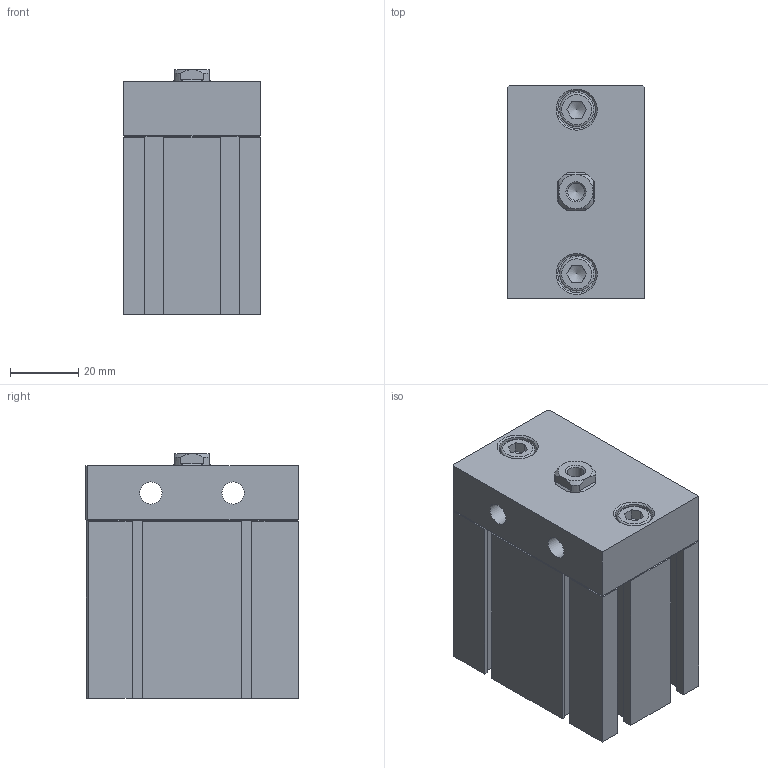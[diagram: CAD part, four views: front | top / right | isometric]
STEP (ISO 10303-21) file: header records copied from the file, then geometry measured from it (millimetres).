
FILE_DESCRIPTION((''),'2;1');
FILE_NAME('I:\3D電子目錄\氣缸\ND\ND\ND32\ND32x20.stp','2007-07-30T20:18:08',('Administrator'),(''),'Autodesk Inventor 11','Autodesk Inventor 11','');
FILE_SCHEMA(('AUTOMOTIVE_DESIGN { 1 0 10303 214 1 1 1 1 }'));
Length unit declared in the file: millimetre
Products named in the file (4): ND32; R 形環 34; ISO 4762 M6 x 16
Assembly tree (4 placements, depth 2):
  ND32
    ND32
    R 形環 34
    ISO 4762 M6 x 16  x2
Bounding box: 40 x 62.1 x 71.5 mm (x, y, z)
Volume: 148959.5 mm3; surface area: 31664.4 mm2
Topology: 5 solids, 5 shells, 195 faces, 467 edges, 297 vertices
Faces by surface type: plane 133, cylinder 25, cone 18, bspline 16, torus 3
Full cylindrical faces by diameter (mm): 1.9 x2, 2.2 x2, 6 x2, 6.5 x2, 10 x2, 11 x2, 23 x1, 34 x1, 36 x1
Entity records: 5217 total; most frequent: CARTESIAN_POINT 1095, DIRECTION 812, ORIENTED_EDGE 782, EDGE_CURVE 391, VECTOR 288, LINE 288, VERTEX_POINT 271, AXIS2_PLACEMENT_3D 262
